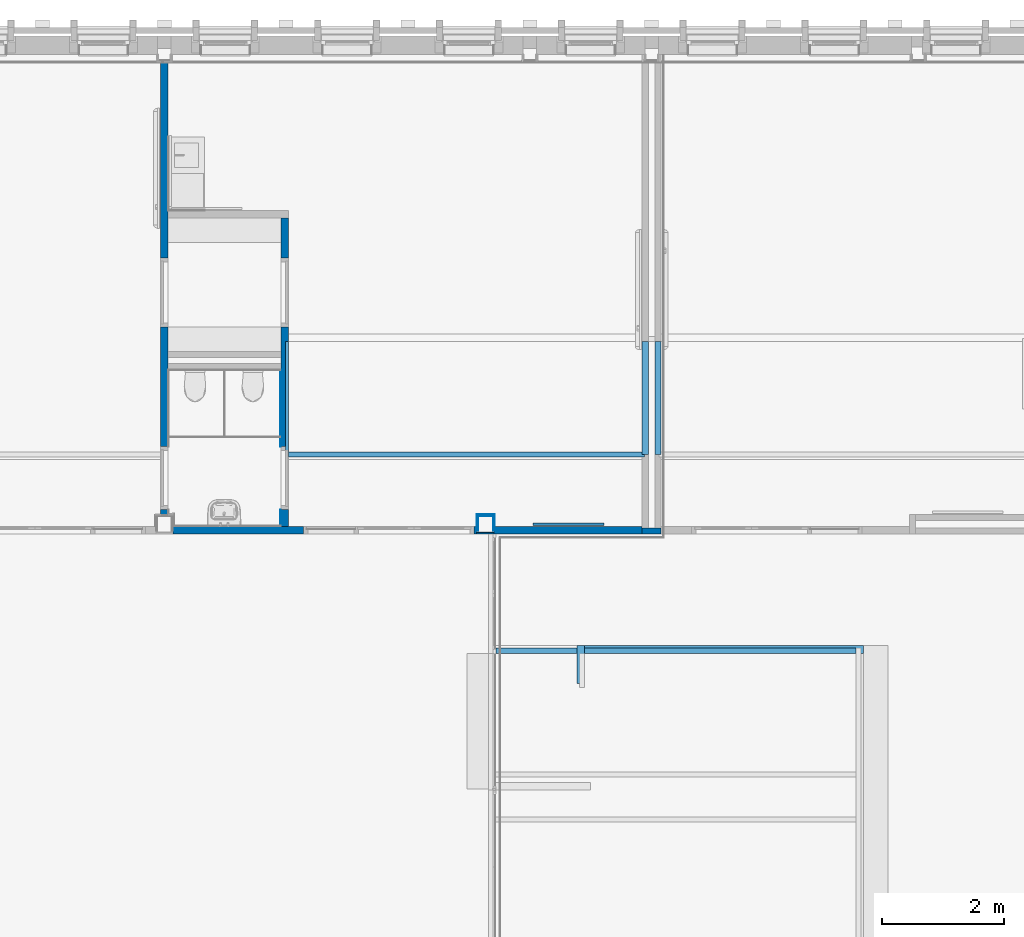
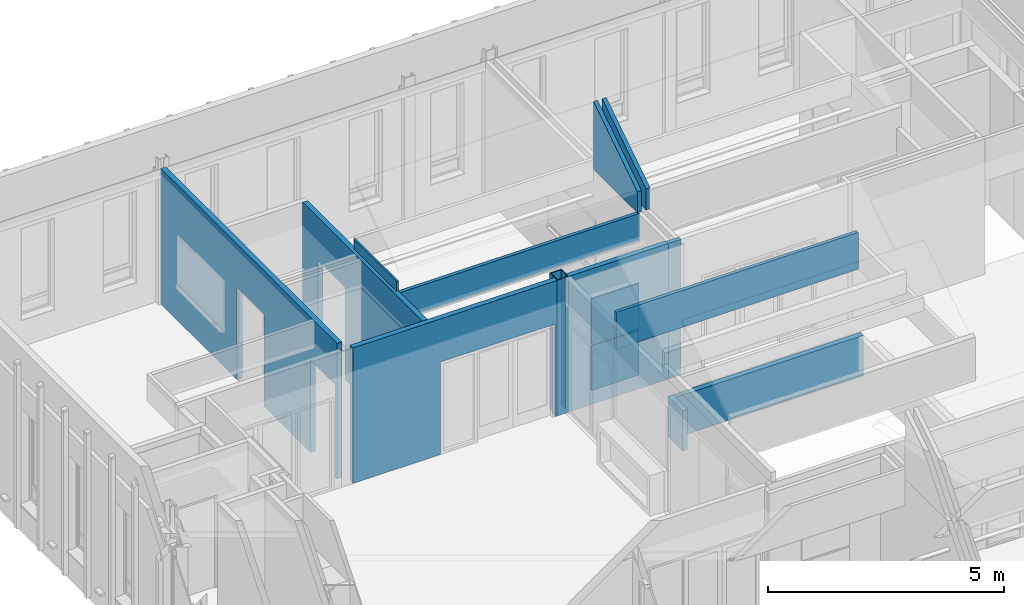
# One storey, part 53 of 118: 22 walls, 8 openings.
"""IFC2X3 building model written with IfcOpenShell, lengths in millimetres."""

from ifc_helpers import new_model, entity, si_unit, converted_unit, derived_unit, direction, frame, frame_2d, origin, place, context, subcontext, project, spatial, polyline, rectangle, extrude, clip, bounded_halfspace, material, layer, layer_set, layer_usage, type_object, element, save


model = new_model("IFC2X3")

# Units and contexts
model_context = context("Model", 3, precision=0.01, world=origin(), true_north=direction((6.123031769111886e-17, 1.0)))
plan_context = context("Plan", 3, precision=0.01, world=origin(), true_north=direction((6.123031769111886e-17, 1.0)))
body_context = subcontext(model_context, "Body", "Model", "MODEL_VIEW")
ifc_project = project(units=[si_unit("LENGTHUNIT", "METRE", prefix="MILLI"), si_unit("AREAUNIT", "SQUARE_METRE"), si_unit("VOLUMEUNIT", "CUBIC_METRE"), converted_unit("PLANEANGLEUNIT", "DEGREE", entity("IfcRatioMeasure", 0.017453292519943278), si_unit("PLANEANGLEUNIT", "RADIAN"), dimensions=[0, 0, 0, 0, 0, 0, 0]), si_unit("MASSUNIT", "GRAM", prefix="KILO"), derived_unit("MASSDENSITYUNIT", [(si_unit("MASSUNIT", "GRAM", prefix="KILO"), 1), (si_unit("LENGTHUNIT", "METRE"), -3)]), derived_unit("IONCONCENTRATIONUNIT", [(si_unit("MASSUNIT", "GRAM", prefix="KILO"), 1), (si_unit("LENGTHUNIT", "METRE"), -3)]), derived_unit("MOMENTOFINERTIAUNIT", [(si_unit("LENGTHUNIT", "METRE"), 4)]), si_unit("TIMEUNIT", "SECOND"), si_unit("FREQUENCYUNIT", "HERTZ"), si_unit("THERMODYNAMICTEMPERATUREUNIT", "DEGREE_CELSIUS"), derived_unit("THERMALTRANSMITTANCEUNIT", [(si_unit("MASSUNIT", "GRAM", prefix="KILO"), 1), (si_unit("THERMODYNAMICTEMPERATUREUNIT", "KELVIN"), -1), (si_unit("TIMEUNIT", "SECOND"), -3)]), derived_unit("THERMALCONDUCTANCEUNIT", [(si_unit("MASSUNIT", "GRAM", prefix="KILO"), 1), (si_unit("THERMODYNAMICTEMPERATUREUNIT", "KELVIN"), -1), (si_unit("TIMEUNIT", "SECOND"), -3), (si_unit("LENGTHUNIT", "METRE"), 1)]), derived_unit("VOLUMETRICFLOWRATEUNIT", [(si_unit("LENGTHUNIT", "METRE"), 3), (si_unit("TIMEUNIT", "SECOND"), -1)]), derived_unit("MASSFLOWRATEUNIT", [(si_unit("MASSUNIT", "GRAM", prefix="KILO"), 1), (si_unit("TIMEUNIT", "SECOND"), -1)]), derived_unit("ROTATIONALFREQUENCYUNIT", [(si_unit("TIMEUNIT", "SECOND"), -1)]), si_unit("ELECTRICCURRENTUNIT", "AMPERE"), si_unit("ELECTRICVOLTAGEUNIT", "VOLT"), si_unit("POWERUNIT", "WATT"), si_unit("FORCEUNIT", "NEWTON", prefix="KILO"), si_unit("ILLUMINANCEUNIT", "LUX"), si_unit("LUMINOUSFLUXUNIT", "LUMEN"), si_unit("LUMINOUSINTENSITYUNIT", "CANDELA"), derived_unit("USERDEFINED", [(si_unit("MASSUNIT", "GRAM", prefix="KILO"), -1), (si_unit("LENGTHUNIT", "METRE"), -2), (si_unit("TIMEUNIT", "SECOND"), 3), (si_unit("LUMINOUSFLUXUNIT", "LUMEN"), 1)]), derived_unit("USERDEFINED", [(si_unit("MASSUNIT", "GRAM", prefix="KILO"), 1), (si_unit("TIMEUNIT", "SECOND"), -3), (si_unit("LENGTHUNIT", "METRE"), 3), (si_unit("ELECTRICCURRENTUNIT", "AMPERE"), -2)]), derived_unit("SOUNDPOWERUNIT", [(si_unit("MASSUNIT", "GRAM", prefix="KILO"), 1), (si_unit("TIMEUNIT", "SECOND"), -3), (si_unit("LENGTHUNIT", "METRE"), 2)]), derived_unit("SOUNDPRESSUREUNIT", [(si_unit("MASSUNIT", "GRAM", prefix="KILO"), 1), (si_unit("LENGTHUNIT", "METRE"), -1), (si_unit("TIMEUNIT", "SECOND"), -2)]), derived_unit("LINEARVELOCITYUNIT", [(si_unit("LENGTHUNIT", "METRE"), 1), (si_unit("TIMEUNIT", "SECOND"), -1)]), si_unit("PRESSUREUNIT", "PASCAL"), derived_unit("USERDEFINED", [(si_unit("MASSUNIT", "GRAM", prefix="KILO"), 1), (si_unit("LENGTHUNIT", "METRE"), -2), (si_unit("TIMEUNIT", "SECOND"), -2)]), derived_unit("LINEARFORCEUNIT", [(si_unit("MASSUNIT", "GRAM", prefix="KILO"), 1), (si_unit("TIMEUNIT", "SECOND"), -2)]), derived_unit("PLANARFORCEUNIT", [(si_unit("MASSUNIT", "GRAM", prefix="KILO"), 1), (si_unit("LENGTHUNIT", "METRE"), -1), (si_unit("TIMEUNIT", "SECOND"), -2)]), derived_unit("SPECIFICHEATCAPACITYUNIT", [(si_unit("THERMODYNAMICTEMPERATUREUNIT", "KELVIN"), -1), (si_unit("LENGTHUNIT", "METRE"), 2), (si_unit("TIMEUNIT", "SECOND"), -2)]), derived_unit("HEATINGVALUEUNIT", [(si_unit("LENGTHUNIT", "METRE"), 2), (si_unit("TIMEUNIT", "SECOND"), -2)]), derived_unit("VAPORPERMEABILITYUNIT", [(si_unit("LENGTHUNIT", "METRE"), -1), (si_unit("TIMEUNIT", "SECOND"), 1)]), derived_unit("DYNAMICVISCOSITYUNIT", [(si_unit("MASSUNIT", "GRAM", prefix="KILO"), 1), (si_unit("TIMEUNIT", "SECOND"), -1), (si_unit("LENGTHUNIT", "METRE"), -1)]), derived_unit("THERMALEXPANSIONCOEFFICIENTUNIT", [(si_unit("THERMODYNAMICTEMPERATUREUNIT", "KELVIN"), -1)]), derived_unit("MODULUSOFELASTICITYUNIT", [(si_unit("MASSUNIT", "GRAM", prefix="KILO"), 1), (si_unit("LENGTHUNIT", "METRE"), -1), (si_unit("TIMEUNIT", "SECOND"), -2)]), derived_unit("ISOTHERMALMOISTURECAPACITYUNIT", [(si_unit("LENGTHUNIT", "METRE"), 3), (si_unit("MASSUNIT", "GRAM", prefix="KILO"), -1)]), derived_unit("MOISTUREDIFFUSIVITYUNIT", [(si_unit("TIMEUNIT", "SECOND"), -1), (si_unit("LENGTHUNIT", "METRE"), 2)])], contexts=[model_context, plan_context])

# Site, building, storey
site_placement = place(None, origin())
site = spatial("IfcSite", under=ifc_project, at=site_placement, Name="Locatie", CompositionType="ELEMENT")
building_placement = place(site_placement, origin())
building = spatial("IfcBuilding", under=site, at=building_placement, Name="Bouwwerk", CompositionType="ELEMENT")
storey_placement = place(building_placement, frame((0.0, 0.0, 7800.0)))
storey = spatial("IfcBuildingStorey", under=building, at=storey_placement, Name="02 tweede verdieping", CompositionType="ELEMENT", Elevation=7800.000000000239)

# Wall, openings
ifc_material_1 = material(Name="f7_gipsvezel")
ifc_layer_1 = layer(ifc_material_1, 12.5)
ifc_material_2 = material(Name="f7_gips")
ifc_layer_2 = layer(ifc_material_2, 12.5)
ifc_material_3 = material(Name="n7_isolatie_glaswol")
ifc_layer_3 = layer(ifc_material_3, 75.0)
ifc_layer_4 = layer(ifc_material_2, 12.5)
ifc_layer_5 = layer(ifc_material_1, 12.5)
ifc_layer_set_1 = layer_set([ifc_layer_1, ifc_layer_2, ifc_layer_3, ifc_layer_4, ifc_layer_5], Name="Basic Wall: 25-75-25 _gen_bdg")
ifc_layer_usage_1 = layer_usage(ifc_layer_set_1, "AXIS2", "NEGATIVE", 62.50000000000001)
wall_type_1 = type_object("IfcWallType", Name="Basic Wall: 25-75-25 _gen_bdg", PredefinedType="STANDARD", material=ifc_layer_set_1)
wall_1_placement = place(storey_placement, frame((16300.0, 26835.0, 0.0), z_axis=(0.0, 0.0, 1.0), x_axis=(0.0, 1.0, 0.0)))
wall_1 = element("IfcWallStandardCase", 1, at=wall_1_placement, inside=storey, type_object=wall_type_1, material=ifc_layer_usage_1, Name="Basic Wall: 25-75-25 _gen_bdg", ObjectType="Basic Wall: 25-75-25 _gen_bdg", context=body_context, shape_type="SweptSolid", body=[
    extrude(rectangle(XDim=7465.000000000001, YDim=125.0000000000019, at=frame_2d((3732.5000000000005, -1.0658141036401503e-13), x_axis=(-1.0, 0.0))), origin(), (0.0, 0.0, 1.0), 3500.0000000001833),
])
opening_1_placement = place(wall_1_placement, frame((-26835.0, 16300.0, 0.0), z_axis=(0.0, 0.0, 1.0), x_axis=(0.0, -1.0, 0.0)))
element("IfcOpeningElement", 2, at=opening_1_placement, cuts=wall_1, Name="Basic Wall: 25-75-25 _gen_bdg", ObjectType="Opening", context=body_context, shape_type="SweptSolid", body=[
    extrude(rectangle(XDim=2387.000000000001, YDim=1034.0000000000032, at=frame_2d((-2.1600499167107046e-12, 0.0), x_axis=(0.0, 1.0))), frame((17886.500000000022, 27442.0, 1193.5000000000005), z_axis=(-1.0, 0.0, 0.0), x_axis=(0.0, -1.0, 0.0)), (0.0, 0.0, 1.0), 3048.0),
])
opening_2_placement = place(wall_1_placement, frame((-26835.0, 16300.0, 0.0), z_axis=(0.0, 0.0, 1.0), x_axis=(0.0, -1.0, 0.0)))
element("IfcOpeningElement", 3, at=opening_2_placement, cuts=wall_1, Name="Basic Wall: 25-75-25 _gen_bdg", ObjectType="Opening", context=body_context, shape_type="SweptSolid", body=[
    extrude(rectangle(XDim=2387.000000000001, YDim=1133.9999999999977, at=frame_2d((2.1600499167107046e-12, 0.0), x_axis=(0.0, 1.0))), frame((17886.500000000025, 30492.0, 1193.5000000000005), z_axis=(-1.0, 0.0, 0.0), x_axis=(0.0, -1.0, 0.0)), (0.0, 0.0, 1.0), 3048.0),
])

wall_2_placement = place(storey_placement, frame((18275.0, 31710.0, 0.0), z_axis=(0.0, 0.0, 1.0), x_axis=(0.0, -1.0, 0.0)))
wall_2 = element("IfcWallStandardCase", 4, at=wall_2_placement, inside=storey, type_object=wall_type_1, material=ifc_layer_usage_1, Name="Basic Wall: 25-75-25 _gen_bdg", ObjectType="Basic Wall: 25-75-25 _gen_bdg", context=body_context, shape_type="SweptSolid", body=[
    extrude(rectangle(XDim=5059.999948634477, YDim=125.0000000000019, at=frame_2d((2529.9999743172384, -1.2789769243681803e-13), x_axis=(-1.0, 0.0))), origin(), (0.0, 0.0, 1.0), 3500.0000000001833),
])
opening_3_placement = place(wall_2_placement, frame((31710.0, -18275.0, 0.0), z_axis=(0.0, 0.0, 1.0), x_axis=(0.0, 1.0, 0.0)))
element("IfcOpeningElement", 5, at=opening_3_placement, cuts=wall_2, Name="Basic Wall: 25-75-25 _gen_bdg", ObjectType="Opening", context=body_context, shape_type="SweptSolid", body=[
    extrude(rectangle(XDim=2387.000000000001, YDim=1033.9999999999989, at=frame_2d((1.1368683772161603e-12, 0.0), x_axis=(1.0, 0.0))), frame((16688.50000000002, 27442.0, 1193.4999999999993), z_axis=(1.0, 0.0, 0.0), x_axis=(0.0, 0.0, 1.0)), (0.0, 0.0, 1.0), 3047.999999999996),
])
opening_4_placement = place(wall_2_placement, frame((31710.0, -18275.0, 0.0), z_axis=(0.0, 0.0, 1.0), x_axis=(0.0, 1.0, 0.0)))
element("IfcOpeningElement", 6, at=opening_4_placement, cuts=wall_2, Name="Basic Wall: 25-75-25 _gen_bdg", ObjectType="Opening", context=body_context, shape_type="SweptSolid", body=[
    extrude(rectangle(XDim=2387.000000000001, YDim=1134.000000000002, at=frame_2d((1.1368683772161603e-12, 0.0), x_axis=(1.0, 0.0))), frame((16688.500000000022, 30492.0, 1193.4999999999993), z_axis=(1.0, 0.0, 0.0), x_axis=(0.0, 0.0, 1.0)), (0.0, 0.0, 1.0), 3048.0),
])

# Walls
wall_3_placement = place(storey_placement, frame((23137.49999996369, 24690.33688591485, 0.0), z_axis=(0.0, 0.0, 1.0), x_axis=(0.0, -1.0, 0.0)))
element("IfcWallStandardCase", 7, at=wall_3_placement, inside=storey, type_object=wall_type_1, material=ifc_layer_usage_1, Name="Basic Wall: 25-75-25 _gen_bdg", ObjectType="Basic Wall: 25-75-25 _gen_bdg", context=body_context, shape_type="SweptSolid", body=[
    extrude(rectangle(XDim=620.5000000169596, YDim=124.99999999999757, at=frame_2d((310.2500000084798, -1.1723955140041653e-13), x_axis=(-1.0, 0.0))), origin(), (0.0, 0.0, 1.0), 1049.9999999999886),
])
wall_4_placement = place(storey_placement, frame((27778.0, 24627.836885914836, 0.0), z_axis=(0.0, 0.0, 1.0), x_axis=(-1.0, 0.0, 0.0)))
element("IfcWallStandardCase", 8, at=wall_4_placement, inside=storey, type_object=wall_type_1, material=ifc_layer_usage_1, Name="Basic Wall: 25-75-25 _gen_bdg", ObjectType="Basic Wall: 25-75-25 _gen_bdg", context=body_context, shape_type="SweptSolid", body=[
    extrude(rectangle(XDim=4577.999999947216, YDim=124.99999999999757, at=frame_2d((2288.999999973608, 1.1368683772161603e-13), x_axis=(-1.0, 0.0))), origin(), (0.0, 0.0, 1.0), 1049.9999999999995),
])

# Wall, opening
wall_5_placement = place(storey_placement, frame((21711.0, 26587.500000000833, 0.0)))
wall_5 = element("IfcWallStandardCase", 9, at=wall_5_placement, inside=storey, type_object=wall_type_1, material=ifc_layer_usage_1, Name="Basic Wall: 25-75-25 _gen_bdg", ObjectType="Basic Wall: 25-75-25 _gen_bdg", context=body_context, shape_type="SweptSolid", body=[
    extrude(rectangle(XDim=2433.9999997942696, YDim=125.0000000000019, at=frame_2d((1216.9999998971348, -2.454925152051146e-12), x_axis=(-1.0, 0.0))), origin(), (0.0, 0.0, 1.0), 3500.0000000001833),
])
opening_5_placement = place(wall_5_placement, origin())
element("IfcOpeningElement", 10, at=opening_5_placement, cuts=wall_5, Name="Basic Wall: 25-75-25 _gen_bdg", ObjectType="Opening", context=body_context, shape_type="SweptSolid", body=[
    extrude(rectangle(XDim=2386.9999999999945, YDim=2796.000000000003, at=frame_2d((-1.1368683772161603e-12, 0.0), x_axis=(0.0, 1.0))), frame((-1725.50000000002, -1586.5000000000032, 1193.4999999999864), z_axis=(0.0, 1.0, 0.0), x_axis=(-1.0, 0.0, 0.0)), (0.0, 0.0, 1.0), 3048.0),
])

wall_6_placement = place(storey_placement, frame((16435.0, 26587.50000000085, 0.0)))
wall_6 = element("IfcWallStandardCase", 11, at=wall_6_placement, inside=storey, type_object=wall_type_1, material=ifc_layer_usage_1, Name="Basic Wall: 25-75-25 _gen_bdg", ObjectType="Basic Wall: 25-75-25 _gen_bdg", context=body_context, shape_type="SweptSolid", body=[
    extrude(rectangle(XDim=4986.500000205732, YDim=125.0000000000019, at=frame_2d((2499.750000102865, -2.518873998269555e-12), x_axis=(1.0, 0.0))), origin(), (0.0, 0.0, 1.0), 3500.0000000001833),
])
opening_6_placement = place(wall_6_placement, frame((-16435.0, -26587.50000000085, 0.0)))
element("IfcOpeningElement", 12, at=opening_6_placement, cuts=wall_6, Name="Basic Wall: 25-75-25 _gen_bdg", ObjectType="Opening", context=body_context, shape_type="SweptSolid", body=[
    extrude(rectangle(XDim=2386.9999999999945, YDim=2796.000000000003, at=frame_2d((-1.1368683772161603e-12, 0.0), x_axis=(0.0, 1.0))), frame((19985.500000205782, 25001.0, 1193.4999999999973), z_axis=(0.0, 1.0, 0.0), x_axis=(-1.0, 0.0, 0.0)), (0.0, 0.0, 1.0), 3048.0),
])

# Walls
ifc_layer_6 = layer(ifc_material_1, 12.5)
ifc_layer_7 = layer(ifc_material_2, 12.5)
ifc_layer_8 = layer(ifc_material_3, 75.0)
ifc_layer_set_2 = layer_set([ifc_layer_6, ifc_layer_7, ifc_layer_8], Name="Basic Wall:22_WA_voorzetwand_ms100 25-75 _gen_bdg")
ifc_layer_usage_2 = layer_usage(ifc_layer_set_2, "AXIS2", "NEGATIVE", 50.0)
wall_type_2 = type_object("IfcWallType", Name="Basic Wall:22_WA_voorzetwand_ms100 25-75 _gen_bdg", PredefinedType="STANDARD", material=ifc_layer_set_2)
wall_7_placement = place(storey_placement, frame((24405.0, 29687.0, 3500.0), z_axis=(0.0, 0.0, 1.0), x_axis=(0.0, -1.0, 0.0)))
element("IfcWallStandardCase", 13, at=wall_7_placement, inside=storey, type_object=wall_type_2, material=ifc_layer_usage_2, Name="Basic Wall:22_WA_voorzetwand_ms100 25-75 _gen_bdg", ObjectType="Basic Wall:22_WA_voorzetwand_ms100 25-75 _gen_bdg", context=body_context, shape_type="Clipping", body=[
    clip(extrude(rectangle(XDim=1858.4999998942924, YDim=100.00000000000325, at=frame_2d((929.2499999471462, -6.146194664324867e-13), x_axis=(-1.0, 0.0))), origin(), (0.0, 0.0, 1.0), 1750.1271556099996), bounded_halfspace(frame((0.0, -50.0, 1750.1271556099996), z_axis=(0.544639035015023, 0.0, 0.8386705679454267), x_axis=(0.0, 1.0, 0.0)), False, frame((0.0, -50.0, 1750.1271556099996)), polyline([(0.0, 0.0), (1858.4999998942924, 0.0), (1858.4999998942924, 100.0), (0.0, 100.0), (0.0, 0.0)]))),
])
ifc_layer_usage_3 = layer_usage(ifc_layer_set_2, "AXIS2", "POSITIVE", -50.0)
wall_8_placement = place(storey_placement, frame((24195.0, 29687.0, 3500.0), z_axis=(0.0, 0.0, 1.0), x_axis=(0.0, -1.0, 0.0)))
element("IfcWallStandardCase", 14, at=wall_8_placement, inside=storey, type_object=wall_type_2, material=ifc_layer_usage_3, Name="Basic Wall:22_WA_voorzetwand_ms100 25-75 _gen_bdg", ObjectType="Basic Wall:22_WA_voorzetwand_ms100 25-75 _gen_bdg", context=body_context, shape_type="Clipping", body=[
    clip(extrude(rectangle(XDim=1858.4999998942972, YDim=100.00000000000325, at=frame_2d((929.2499999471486, -4.618527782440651e-14), x_axis=(-1.0, 0.0))), origin(), (0.0, 0.0, 1.0), 1750.1271556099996), bounded_halfspace(frame((0.0, -50.0, 1750.1271556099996), z_axis=(0.544639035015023, 0.0, 0.8386705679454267), x_axis=(0.0, 1.0, 0.0)), False, frame((0.0, -50.0, 1750.1271556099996)), polyline([(0.0, 0.0), (1858.499999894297, 0.0), (1858.499999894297, 100.0), (0.0, 100.0), (0.0, 0.0)]))),
])
ifc_layer_9 = layer(ifc_material_1, 13.000000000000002)
ifc_layer_set_3 = layer_set([ifc_layer_9], Name="Basic Wall:NLRS_41_WA_gips 13_gen_ISR")
ifc_layer_usage_4 = layer_usage(ifc_layer_set_3, "AXIS2", "NEGATIVE", 6.500000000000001)
wall_type_3 = type_object("IfcWallType", Name="Basic Wall:NLRS_41_WA_gips 13_gen_ISR", PredefinedType="STANDARD", material=ifc_layer_set_3)
wall_9_placement = place(storey_placement, frame((21428.0, 26841.49999999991, 0.0)))
element("IfcWallStandardCase", 15, at=wall_9_placement, inside=storey, type_object=wall_type_3, material=ifc_layer_usage_4, Name="Basic Wall:NLRS_41_WA_gips 13_gen_ISR", ObjectType="Basic Wall:NLRS_41_WA_gips 13_gen_ISR", context=body_context, shape_type="SweptSolid", body=[
    extrude(rectangle(XDim=295.99999999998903, YDim=12.999999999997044, at=frame_2d((147.99999999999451, 0.0), x_axis=(-1.0, 0.0))), origin(), (0.0, 0.0, 1.0), 3500.0000000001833),
])
wall_10_placement = place(storey_placement, frame((21717.500000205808, 26835.0, 0.0), z_axis=(0.0, 0.0, 1.0), x_axis=(0.0, -1.0, 0.0)))
element("IfcWallStandardCase", 16, at=wall_10_placement, inside=storey, type_object=wall_type_3, material=ifc_layer_usage_4, Name="Basic Wall:NLRS_41_WA_gips 13_gen_ISR", ObjectType="Basic Wall:NLRS_41_WA_gips 13_gen_ISR", context=body_context, shape_type="SweptSolid", body=[
    extrude(rectangle(XDim=184.99999999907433, YDim=12.999999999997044, at=frame_2d((92.49999999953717, 0.0), x_axis=(-1.0, 0.0))), origin(), (0.0, 0.0, 1.0), 3500.0000000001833),
])
wall_11_placement = place(storey_placement, frame((21434.500000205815, 26580.0, 0.0), z_axis=(0.0, 0.0, 1.0), x_axis=(0.0, 1.0, 0.0)))
element("IfcWallStandardCase", 17, at=wall_11_placement, inside=storey, type_object=wall_type_3, material=ifc_layer_usage_4, Name="Basic Wall:NLRS_41_WA_gips 13_gen_ISR", ObjectType="Basic Wall:NLRS_41_WA_gips 13_gen_ISR", context=body_context, shape_type="SweptSolid", body=[
    extrude(rectangle(XDim=254.99999999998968, YDim=12.999999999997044, at=frame_2d((127.49999999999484, 0.0), x_axis=(-1.0, 0.0))), origin(), (0.0, 0.0, 1.0), 3500.0000000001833),
])
ifc_layer_10 = layer(ifc_material_1, 13.000000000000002)
ifc_material_4 = material(Name="ISR_Luchtspouw")
ifc_layer_11 = layer(ifc_material_4, 71.0)
ifc_layer_set_4 = layer_set([ifc_layer_10, ifc_layer_11], Name="Basic Wall:22_WA_koof_83 12-71")
ifc_layer_usage_5 = layer_usage(ifc_layer_set_4, "AXIS2", "NEGATIVE", 41.99999999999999)
wall_type_4 = type_object("IfcWallType", Name="Basic Wall:22_WA_koof_83 12-71", PredefinedType="STANDARD", material=ifc_layer_set_4)
wall_12_placement = place(storey_placement, frame((27653.0, 24607.336885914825, 2800.0), z_axis=(0.0, 0.0, 1.0), x_axis=(-1.0, 0.0, 0.0)))
element("IfcWallStandardCase", 18, at=wall_12_placement, inside=storey, type_object=wall_type_4, material=ifc_layer_usage_5, Name="Basic Wall:22_WA_koof_83 12-71", ObjectType="Basic Wall:22_WA_koof_83 12-71", context=body_context, shape_type="SweptSolid", body=[
    extrude(rectangle(XDim=5905.999999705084, YDim=83.99999999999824, at=frame_2d((2952.999999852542, -1.3500311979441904e-13), x_axis=(-1.0, 0.0))), origin(), (0.0, 0.0, 1.0), 950.0000000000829),
])
wall_13_placement = place(storey_placement, frame((18337.504118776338, 27833.0, 2800.0)))
element("IfcWallStandardCase", 19, at=wall_13_placement, inside=storey, type_object=wall_type_4, material=ifc_layer_usage_5, Name="Basic Wall:22_WA_koof_83 12-71", ObjectType="Basic Wall:22_WA_koof_83 12-71", context=body_context, shape_type="SweptSolid", body=[
    extrude(rectangle(XDim=5842.495881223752, YDim=83.99999999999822, at=frame_2d((2921.247940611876, 0.0), x_axis=(-1.0, 0.0))), origin(), (0.0, 0.0, 1.0), 700.000000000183),
])
ifc_layer_12 = layer(ifc_material_3, 75.0)
ifc_layer_13 = layer(ifc_material_2, 12.5)
ifc_layer_14 = layer(ifc_material_1, 12.5)
ifc_layer_set_5 = layer_set([ifc_layer_12, ifc_layer_13, ifc_layer_14], Name="Basic Wall: 25-75 _gen_bdg")
ifc_layer_usage_6 = layer_usage(ifc_layer_set_5, "AXIS2", "NEGATIVE", 50.0)
wall_type_5 = type_object("IfcWallType", Name="Basic Wall: 25-75 _gen_bdg", PredefinedType="STANDARD", material=ifc_layer_set_5)
wall_14_placement = place(storey_placement, frame((24145.0, 26575.0, 0.0)))
element("IfcWallStandardCase", 20, at=wall_14_placement, inside=storey, type_object=wall_type_5, material=ifc_layer_usage_6, Name="Basic Wall: 25-75 _gen_bdg", ObjectType="Basic Wall: 25-75 _gen_bdg", context=body_context, shape_type="SweptSolid", body=[
    extrude(rectangle(XDim=310.00000000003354, YDim=100.00000000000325, at=frame_2d((155.00000000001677, 5.151434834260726e-13), x_axis=(-1.0, 0.0))), origin(), (0.0, 0.0, 1.0), 3500.0000000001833),
])

# Wall, opening
ifc_material_5 = material(Name="g3_tegels_creme_150x150")
ifc_layer_15 = layer(ifc_material_5, 10.0)
ifc_layer_set_6 = layer_set([ifc_layer_15], Name="Basic Wall:21_WA_tegelwerk 10")
ifc_layer_usage_7 = layer_usage(ifc_layer_set_6, "AXIS2", "NEGATIVE", 4.999999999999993)
wall_type_6 = type_object("IfcWallType", Name="Basic Wall:21_WA_tegelwerk 10", PredefinedType="STANDARD", material=ifc_layer_set_6)
wall_15_placement = place(storey_placement, frame((18207.500000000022, 29225.0, 0.0), z_axis=(0.0, 0.0, 1.0), x_axis=(0.0, -1.0, 0.0)))
wall_15 = element("IfcWallStandardCase", 21, at=wall_15_placement, inside=storey, type_object=wall_type_6, material=ifc_layer_usage_7, Name="Basic Wall:21_WA_tegelwerk 10", ObjectType="Basic Wall:21_WA_tegelwerk 10", context=body_context, shape_type="SweptSolid", body=[
    extrude(rectangle(XDim=2564.999999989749, YDim=10.000000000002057, at=frame_2d((1282.4999999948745, -1.0658141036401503e-14), x_axis=(-1.0, 0.0))), origin(), (0.0, 0.0, 1.0), 2800.0),
])
opening_7_placement = place(wall_15_placement, origin())
element("IfcOpeningElement", 22, at=opening_7_placement, cuts=wall_15, Name="Basic Wall:21_WA_tegelwerk 10", ObjectType="Opening", context=body_context, shape_type="SweptSolid", body=[
    extrude(rectangle(XDim=2387.000000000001, YDim=1033.9999999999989, at=frame_2d((1.1368683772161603e-12, 0.0), x_axis=(1.0, 0.0))), frame((1783.0, -1519.0, 1193.4999999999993), z_axis=(0.0, 1.0, 0.0), x_axis=(0.0, 0.0, 1.0)), (0.0, 0.0, 1.0), 3048.0),
])

# Walls
ifc_layer_16 = layer(ifc_material_1, 12.5)
ifc_layer_17 = layer(ifc_material_2, 12.5)
ifc_layer_18 = layer(ifc_material_4, 20.0)
ifc_layer_set_7 = layer_set([ifc_layer_16, ifc_layer_17, ifc_layer_18], Name="Basic Wall:22_WA_2xgips+rachels 25-20 _gen_bdg")
ifc_layer_usage_8 = layer_usage(ifc_layer_set_7, "AXIS2", "NEGATIVE", 22.50000000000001)
wall_type_7 = type_object("IfcWallType", Name="Basic Wall:22_WA_2xgips+rachels 25-20 _gen_bdg", PredefinedType="STANDARD", material=ifc_layer_set_7)
wall_16_placement = place(storey_placement, frame((18315.0, 29687.0, 3500.0), z_axis=(0.0, 0.0, 1.0), x_axis=(0.0, -1.0, 0.0)))
element("IfcWallStandardCase", 23, at=wall_16_placement, inside=storey, type_object=wall_type_7, material=ifc_layer_usage_8, Name="Basic Wall:22_WA_2xgips+rachels 25-20 _gen_bdg", ObjectType="Basic Wall:22_WA_2xgips+rachels 25-20 _gen_bdg", context=body_context, shape_type="SweptSolid", body=[
    extrude(rectangle(XDim=1811.9999998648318, YDim=44.99999999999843, at=frame_2d((905.9999999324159, 0.0), x_axis=(-1.0, 0.0))), origin(), (0.0, 0.0, 1.0), 249.9999999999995),
])
ifc_material_6 = material(Name="ISR_brandwerende beplating")
ifc_layer_19 = layer(ifc_material_6, 15.0)
ifc_layer_set_8 = layer_set([ifc_layer_19], Name="Basic Wall:NLRS_41_WA_brandwerende beplating 15_gen_ISR")
ifc_layer_usage_9 = layer_usage(ifc_layer_set_8, "AXIS2", "NEGATIVE", 7.5)
wall_type_8 = type_object("IfcWallType", Name="Basic Wall:NLRS_41_WA_brandwerende beplating 15_gen_ISR", PredefinedType="STANDARD", material=ifc_layer_set_8)
for number, where, z_axis, x_axis, name in (
    (24, (21703.500000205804, 26835.0, 0.0), (0.0, 0.0, 1.0), (0.0, -1.0, 0.0), "Basic Wall:NLRS_41_WA_brandwerende beplating 15_gen_ISR"),
    (25, (21448.500000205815, 26580.0, 0.0), (0.0, 0.0, 1.0), (0.0, 1.0, 0.0), "Basic Wall:NLRS_41_WA_brandwerende beplating 15_gen_ISR"),
):
    element("IfcWallStandardCase", number, at=place(storey_placement, frame(where, z_axis=z_axis, x_axis=x_axis)), inside=storey, type_object=wall_type_8, material=ifc_layer_usage_9, Name=name, ObjectType="Basic Wall:NLRS_41_WA_brandwerende beplating 15_gen_ISR", context=body_context, shape_type="SweptSolid", body=[
        extrude(rectangle(XDim=254.99999999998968, YDim=14.99999999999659, at=frame_2d((127.49999999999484, 0.0), x_axis=(-1.0, 0.0))), origin(), (0.0, 0.0, 1.0), 3500.0000000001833),
    ])
wall_17_placement = place(storey_placement, frame((21456.0, 26827.49999999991, 0.0)))
element("IfcWallStandardCase", 26, at=wall_17_placement, inside=storey, type_object=wall_type_8, material=ifc_layer_usage_9, Name="Basic Wall:NLRS_41_WA_brandwerende beplating 15_gen_ISR", ObjectType="Basic Wall:NLRS_41_WA_brandwerende beplating 15_gen_ISR", context=body_context, shape_type="SweptSolid", body=[
    extrude(rectangle(XDim=239.99999999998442, YDim=14.99999999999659, at=frame_2d((119.99999999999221, 0.0), x_axis=(-1.0, 0.0))), origin(), (0.0, 0.0, 1.0), 3500.0000000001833),
])
ifc_material_7 = material(Name="f7_binnenwandafwerking")
ifc_layer_20 = layer(ifc_material_7, 1.0)
ifc_layer_21 = layer(ifc_material_4, 39.0)
ifc_layer_set_9 = layer_set([ifc_layer_20, ifc_layer_21], Name="Basic Wall:NLRS_41_WA_akoestische panelen 40_gen_ISR")
ifc_layer_usage_10 = layer_usage(ifc_layer_set_9, "AXIS2", "NEGATIVE", 20.0)
wall_type_9 = type_object("IfcWallType", Name="Basic Wall:NLRS_41_WA_akoestische panelen 40_gen_ISR", PredefinedType="STANDARD", material=ifc_layer_set_9)
for number, where, name in (
    (27, (22354.500000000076, 26685.0, 1450.0), "Basic Wall:NLRS_41_WA_akoestische panelen 40_gen_ISR"),
    (28, (22354.500000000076, 26685.0, 240.0), "Basic Wall:NLRS_41_WA_akoestische panelen 40_gen_ISR"),
):
    element("IfcWallStandardCase", number, at=place(storey_placement, frame(where)), inside=storey, type_object=wall_type_9, material=ifc_layer_usage_10, Name=name, ObjectType="Basic Wall:NLRS_41_WA_akoestische panelen 40_gen_ISR", context=body_context, shape_type="SweptSolid", body=[
        extrude(rectangle(XDim=1160.0000000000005, YDim=39.999999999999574, at=frame_2d((580.0000000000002, 6.572520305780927e-13), x_axis=(-1.0, 0.0))), origin(), (0.0, 0.0, 1.0), 1160.0000000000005),
    ])

# Wall, opening
ifc_layer_22 = layer(ifc_material_1, 12.5)
ifc_layer_23 = layer(ifc_material_2, 12.5)
ifc_layer_set_10 = layer_set([ifc_layer_22, ifc_layer_23], Name="Basic Wall:22_WA_2xgips 25 _gen_bdg")
ifc_layer_usage_11 = layer_usage(ifc_layer_set_10, "AXIS2", "POSITIVE", -12.5)
wall_type_10 = type_object("IfcWallType", Name="Basic Wall:22_WA_2xgips 25 _gen_bdg", PredefinedType="STANDARD", material=ifc_layer_set_10)
wall_18_placement = place(storey_placement, frame((21428.0, 26537.50000000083, 0.0)))
wall_18 = element("IfcWallStandardCase", 29, at=wall_18_placement, inside=storey, type_object=wall_type_10, material=ifc_layer_usage_11, Name="Basic Wall:22_WA_2xgips 25 _gen_bdg", ObjectType="Basic Wall:22_WA_2xgips 25 _gen_bdg", context=body_context, shape_type="SweptSolid", body=[
    extrude(rectangle(XDim=282.999999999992, YDim=25.000000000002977, at=frame_2d((141.499999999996, 4.698463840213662e-13), x_axis=(-1.0, 0.0))), origin(), (0.0, 0.0, 1.0), 3500.0000000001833),
])
opening_8_placement = place(wall_18_placement, origin())
element("IfcOpeningElement", 30, at=opening_8_placement, cuts=wall_18, Name="Basic Wall:22_WA_2xgips 25 _gen_bdg", ObjectType="Opening", context=body_context, shape_type="SweptSolid", body=[
    extrude(rectangle(XDim=2386.9999999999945, YDim=2796.000000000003, at=frame_2d((-1.1368683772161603e-12, 0.0), x_axis=(0.0, 1.0))), frame((-1442.500000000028, -1536.499999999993, 1193.4999999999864), z_axis=(0.0, 1.0, 0.0), x_axis=(-1.0, 0.0, 0.0)), (0.0, 0.0, 1.0), 3048.0),
])

save(model, "model.ifc")
